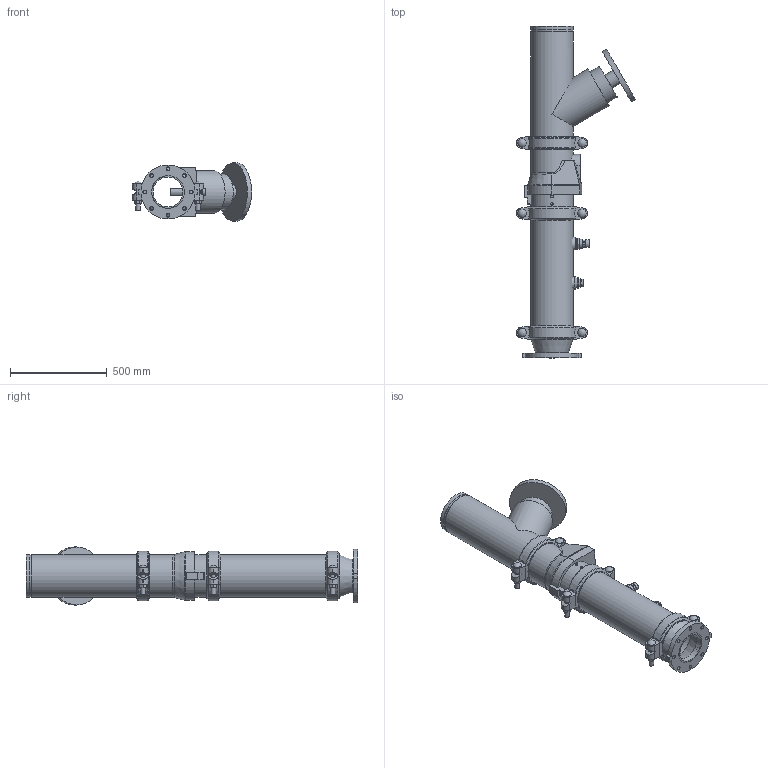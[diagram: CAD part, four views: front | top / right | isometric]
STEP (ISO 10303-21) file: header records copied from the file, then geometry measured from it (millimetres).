
FILE_DESCRIPTION(/* description */ ('VIC DVI PUMP DROP VERT S/383 (OGSxFLG) (S/924-0.75)','CAx-IF Rec.Pracs.---Representation and Presentation of Product Manufacturing Information (PMI)---4.0---2014-10-13'),/* implementation_level */ '2;1');
FILE_NAME(/* name */ 'C:\Users\Public\Documents\Victaulic.Temp\A849\Victaulic_IPS_Vertical DVI_CL 150_Series 383 (OGSxFLG)_924 (0.75)_08.0x06.0 (200x150).stp',/* time_stamp */ '2022-07-25T11:41:32+02:00',/* author */ ('Vjadhav'),/* organization */ ('Victaulic'),/* preprocessor_version */ 'ST-DEVELOPER v18',/* originating_system */ 'Autodesk Inventor 2020',/* authorisation */ '');
FILE_SCHEMA (('AP242_MANAGED_MODEL_BASED_3D_ENGINEERING_MIM_LF { 1 0 10303 442 1 1 4 }'));
Length unit declared in the file: inch
Products named in the file (9): 383_924 (0.75)-08.0x06.0; 741-06.0; 050-08.0x06.0; Pipe-08.0; 177N-08.0; 789-08.0; 779-08.0; 924-04.0x0.75; 923-04.0x0.75
Assembly tree (10 placements, depth 2):
  383_924 (0.75)-08.0x06.0
    741-06.0
    050-08.0x06.0
    177N-08.0  x3
    Pipe-08.0
    789-08.0
    779-08.0
    924-04.0x0.75
    923-04.0x0.75
Bounding box: 615.44 x 1714.5 x 299.97 mm (x, y, z)
Volume: 27402073.9 mm3; surface area: 3460309.8 mm2
Topology: 10 solids, 10 shells, 522 faces, 1377 edges, 925 vertices
Faces by surface type: plane 301, cylinder 176, cone 19, torus 18, sphere 6, bspline 2
Full cylindrical faces by diameter (mm): 13.716 x4, 19.05 x8, 23.774 x6, 26.67 x2, 38.608 x1, 42.85 x6, 45.974 x4, 55.626 x2, 76.2 x1, 154.051 x1, 163.957 x1, 168.275 x3, 183.515 x1, 202.717 x4, 206.375 x3, 214.401 x7, 219.075 x19, 299.974 x1
Entity records: 11670 total; most frequent: CARTESIAN_POINT 2380, DIRECTION 1909, ORIENTED_EDGE 1734, EDGE_CURVE 867, AXIS2_PLACEMENT_3D 732, VERTEX_POINT 589, LINE 445, VECTOR 445
